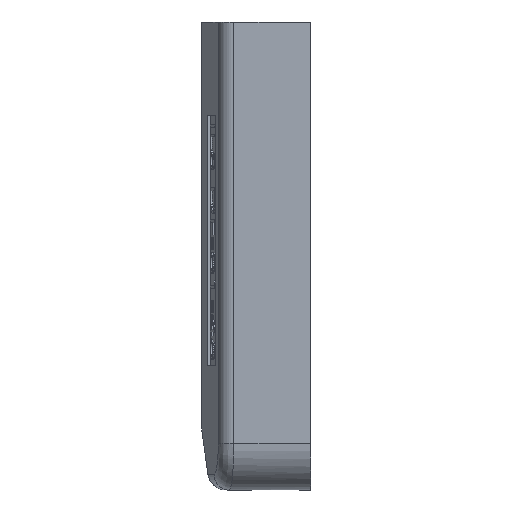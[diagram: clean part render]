
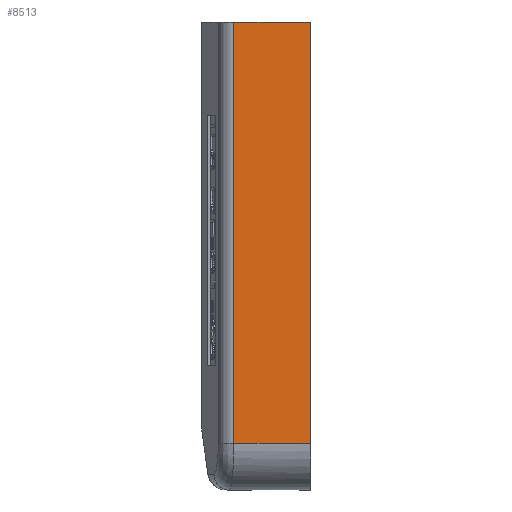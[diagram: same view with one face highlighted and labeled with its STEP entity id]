
A CAD part, left-side view. The second image highlights one B-rep face of the part: STEP entity #8513.
In plain terms, the highlighted planar face has unit normal (-1, 0, 0).
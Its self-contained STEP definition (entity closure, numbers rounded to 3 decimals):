
#8 = DIRECTION ( 'NONE',  ( 1., 0., 0. ) ) ;
#79 = VECTOR ( 'NONE', #5699, 1000. ) ;
#611 = ORIENTED_EDGE ( 'NONE', *, *, #4640, .T. ) ;
#766 = FACE_OUTER_BOUND ( 'NONE', #7878, .T. ) ;
#816 = PLANE ( 'NONE',  #5832 ) ;
#1064 = VERTEX_POINT ( 'NONE', #6386 ) ;
#1342 = CARTESIAN_POINT ( 'NONE',  ( -118.5, 35., 75. ) ) ;
#1375 = ORIENTED_EDGE ( 'NONE', *, *, #7202, .T. ) ;
#1548 = VECTOR ( 'NONE', #5783, 1000. ) ;
#1912 = CARTESIAN_POINT ( 'NONE',  ( -118.5, 0., 75. ) ) ;
#1989 = ORIENTED_EDGE ( 'NONE', *, *, #9074, .T. ) ;
#2008 = VERTEX_POINT ( 'NONE', #3554 ) ;
#2426 = CARTESIAN_POINT ( 'NONE',  ( -118.5, 24.642, 75. ) ) ;
#2494 = ORIENTED_EDGE ( 'NONE', *, *, #7649, .F. ) ;
#3041 = VERTEX_POINT ( 'NONE', #2426 ) ;
#3345 = VECTOR ( 'NONE', #4343, 1000. ) ;
#3554 = CARTESIAN_POINT ( 'NONE',  ( -118.5, 0., 75. ) ) ;
#4343 = DIRECTION ( 'NONE',  ( 0., 0., 1. ) ) ;
#4640 = EDGE_CURVE ( 'NONE', #3041, #7139, #6395, .T. ) ;
#4675 = CARTESIAN_POINT ( 'NONE',  ( -118.5, 35., -60. ) ) ;
#4882 = CARTESIAN_POINT ( 'NONE',  ( -118.5, 24.642, -60. ) ) ;
#5699 = DIRECTION ( 'NONE',  ( 0., -1., 0. ) ) ;
#5783 = DIRECTION ( 'NONE',  ( 0., 0., -1. ) ) ;
#5794 = LINE ( 'NONE', #1912, #3345 ) ;
#5832 = AXIS2_PLACEMENT_3D ( 'NONE', #6869, #8, #8423 ) ;
#5940 = LINE ( 'NONE', #1342, #9662 ) ;
#6386 = CARTESIAN_POINT ( 'NONE',  ( -118.5, 0., -60. ) ) ;
#6395 = LINE ( 'NONE', #4882, #1548 ) ;
#6869 = CARTESIAN_POINT ( 'NONE',  ( -118.5, 35., 75. ) ) ;
#7139 = VERTEX_POINT ( 'NONE', #8760 ) ;
#7202 = EDGE_CURVE ( 'NONE', #7139, #1064, #7254, .T. ) ;
#7254 = LINE ( 'NONE', #4675, #79 ) ;
#7649 = EDGE_CURVE ( 'NONE', #3041, #2008, #5940, .T. ) ;
#7878 = EDGE_LOOP ( 'NONE', ( #2494, #611, #1375, #1989 ) ) ;
#8423 = DIRECTION ( 'NONE',  ( 0., 0., -1. ) ) ;
#8513 = ADVANCED_FACE ( 'NONE', ( #766 ), #816, .F. ) ;
#8760 = CARTESIAN_POINT ( 'NONE',  ( -118.5, 24.642, -60. ) ) ;
#8901 = DIRECTION ( 'NONE',  ( 0., -1., 0. ) ) ;
#9074 = EDGE_CURVE ( 'NONE', #1064, #2008, #5794, .T. ) ;
#9662 = VECTOR ( 'NONE', #8901, 1000. ) ;
